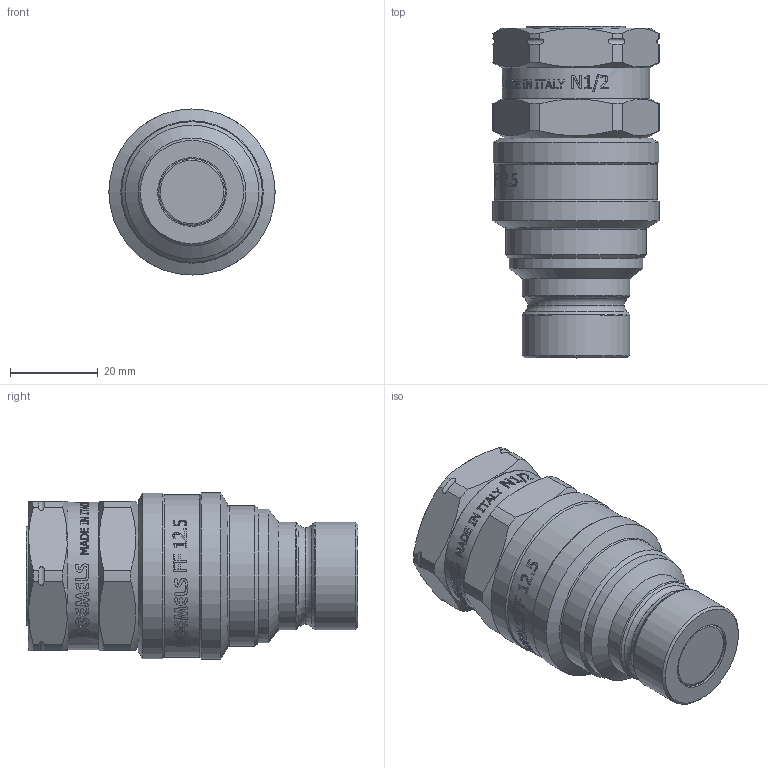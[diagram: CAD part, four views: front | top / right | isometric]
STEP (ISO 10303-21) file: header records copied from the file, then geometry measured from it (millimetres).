
FILE_DESCRIPTION(/* description */ (''),/* implementation_level */ '2;1');
FILE_NAME(/* name */ 'NC05N0300003.stp',/* time_stamp */ '2024-08-26T13:38:46+02:00',/* author */ ('thomas.belotti'),/* organization */ (''),/* preprocessor_version */ 'ST-DEVELOPER v20',/* originating_system */ 'Autodesk Inventor 2024',/* authorisation */ '');
FILE_SCHEMA (('AUTOMOTIVE_DESIGN { 1 0 10303 214 3 1 1 }'));
Length unit declared in the file: millimetre
Products named in the file (1): Parte3
Bounding box: 37.8 x 75.5 x 37.8 mm (x, y, z)
Volume: 58015.2 mm3; surface area: 12111.7 mm2
Topology: 1 solids, 3 shells, 1102 faces, 3134 edges, 2080 vertices
Faces by surface type: bspline 701, plane 288, cylinder 84, cone 17, torus 12
Full cylindrical faces by diameter (mm): 15.65 x1, 17.475 x1, 18 x1, 19 x1, 22 x1, 22.5 x1, 24.5 x2, 30.45 x1, 32 x2, 32.3 x1, 33.5 x1, 37 x1, 37.7 x1, 37.8 x1
Entity records: 47522 total; most frequent: CARTESIAN_POINT 22332, ORIENTED_EDGE 6268, EDGE_CURVE 3134, DIRECTION 2856, VERTEX_POINT 2080, B_SPLINE_CURVE_WITH_KNOTS 1468, LINE 1232, VECTOR 1232
